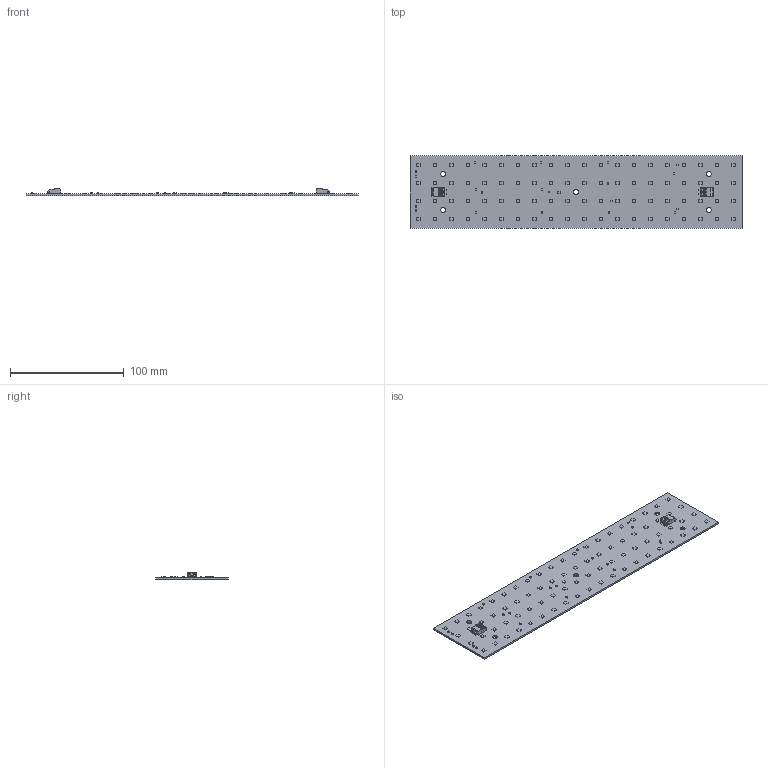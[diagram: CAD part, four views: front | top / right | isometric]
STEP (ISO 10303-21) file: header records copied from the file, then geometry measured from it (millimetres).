
FILE_DESCRIPTION((''),'2;1');
FILE_NAME('U80SG1150_06092021_10-03-42_ASM','2021-06-09T',('SYSTEM'),(''),'PRO/ENGINEER BY PARAMETRIC TECHNOLOGY CORPORATION, 2009360','PRO/ENGINEER BY PARAMETRIC TECHNOLOGY CORPORATION, 2009360','');
FILE_SCHEMA(('AUTOMOTIVE_DESIGN_CC2 { 1 2 10303 214 -1 1 5 2 }'));
Products named in the file (6): U80SG1150_06092021_10-03-42; RESC1608X84N; TC_R1MM; WAGO_2PIN; 3030_LED; U80SG1150_06092021_10-03-42_ASM
Assembly tree (104 placements, depth 2):
  U80SG1150_06092021_10-03-42_ASM
    U80SG1150_06092021_10-03-42
    RESC1608X84N  x20
    TC_R1MM
    WAGO_2PIN  x2
    3030_LED  x80
Bounding box: 292.1 x 63.5 x 6.34 mm (x, y, z)
Volume: 30557.6 mm3; surface area: 41406.8 mm2
Topology: 104 solids, 104 shells, 1192 faces, 2804 edges, 1864 vertices
Faces by surface type: plane 1066, cylinder 118, sphere 8
Entity records: 9866 total; most frequent: CARTESIAN_POINT 1511, DIRECTION 1431, ORIENTED_EDGE 1266, EDGE_CURVE 633, AXIS2_PLACEMENT_3D 482, VECTOR 467, LINE 467, VERTEX_POINT 422
